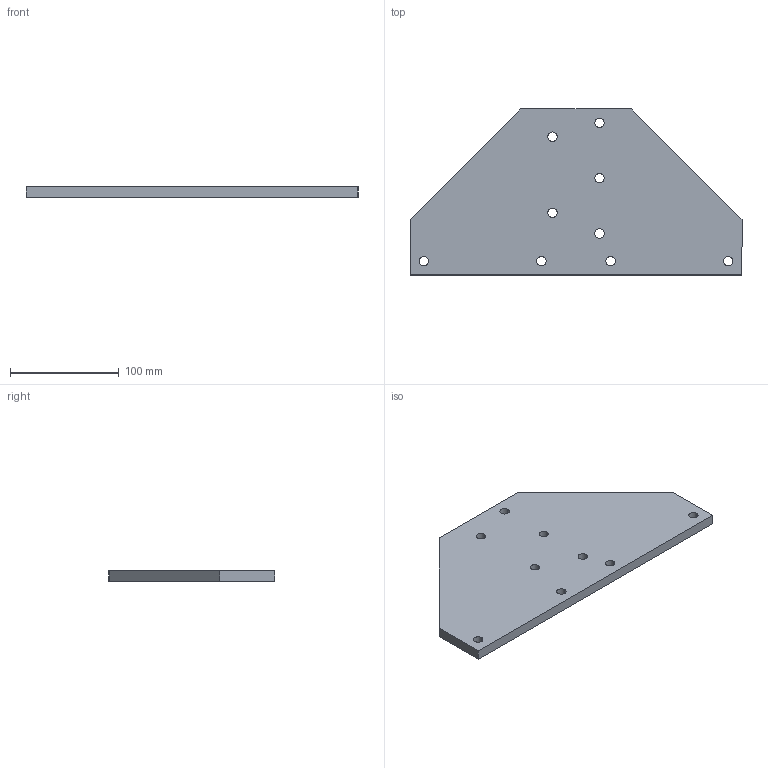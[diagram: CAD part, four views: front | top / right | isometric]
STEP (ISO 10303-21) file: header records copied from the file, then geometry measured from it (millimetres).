
FILE_DESCRIPTION (( 'STEP AP203' ), '1' );
FILE_NAME ('269-18-406.STEP', '2020-03-02T20:56:27', ( '' ), ( '' ), 'SwSTEP 2.0', 'SolidWorks 2017', '' );
FILE_SCHEMA (( 'CONFIG_CONTROL_DESIGN' ));
Length unit declared in the file: inch
Products named in the file (1): 269-18-406
Bounding box: 304.8 x 152.4 x 9.53 mm (x, y, z)
Volume: 339107 mm3; surface area: 81105.2 mm2
Topology: 1 solids, 1 shells, 26 faces, 72 edges, 48 vertices
Faces by surface type: cylinder 18, plane 8
Entity records: 967 total; most frequent: DIRECTION 162, CARTESIAN_POINT 147, ORIENTED_EDGE 144, EDGE_CURVE 72, AXIS2_PLACEMENT_3D 63, VERTEX_POINT 48, EDGE_LOOP 44, CIRCLE 36
